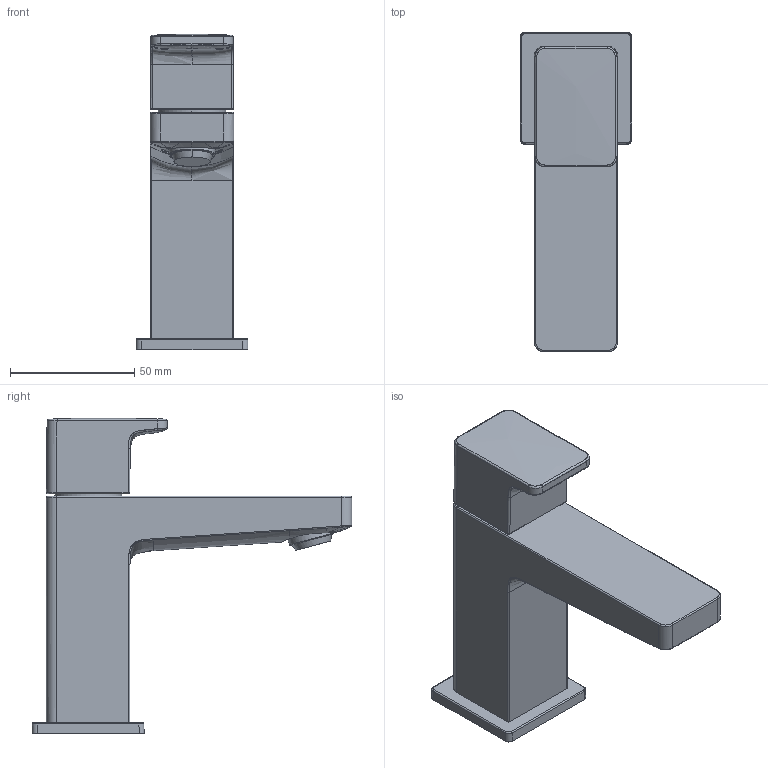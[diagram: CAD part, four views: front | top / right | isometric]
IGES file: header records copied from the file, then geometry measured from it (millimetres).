
Global section: file name: d:\users\matthias.isele\Desktop\Planungsdaten_erstellen\Armaturen\Manhattan\MH1080002010_MH1080002046\3D\MH1080002010_MH1080002046.igs; native system: Rhinoceros ( Sep 13 2016 ); preprocessor: Trout Lake IGES 012 Sep 13 2016; date: 230111.084600; units: millimetre
Bounding box: 45 x 128.5 x 126.94 mm (x, y, z)
Surface area: 35452.6 mm2 (no closed solid volume)
Topology: 0 solids, 0 shells, 143 faces, 2732 edges, 2732 vertices
Faces by surface type: bspline 143
